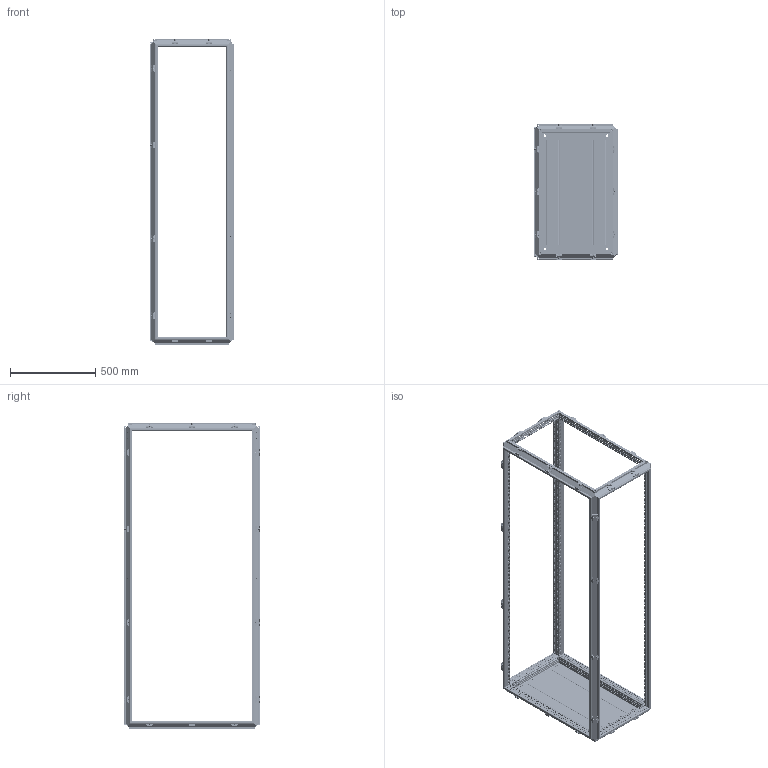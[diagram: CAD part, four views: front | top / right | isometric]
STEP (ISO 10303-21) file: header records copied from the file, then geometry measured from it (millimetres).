
FILE_DESCRIPTION(('STEP AP203'), '1');
FILE_NAME('3000 忺謤僔 捘', '', ('UNSPECIFIED'), ('UNSPECIFIED'), 'C3D Converter', 'C3D Toolkit', '');
FILE_SCHEMA(('CONFIG_CONTROL_DESIGN'));
Length unit declared in the file: millimetre
Products named in the file (12): 3000.180.80.50 СБ; 3000; 3007.75; 3007.200; 3009.04; 3009.04.01; 3009.04.2; 3009.04.01.2
Assembly tree (142 placements, depth 3):
  3000.180.80.50 СБ
    3000
    (unnamed)  x96
    3007.75  x2
    (unnamed)  x8
    3007.200
    3009.04  x10
      3009.04.01
      (unnamed)
      (unnamed)
    3009.04.2  x15
      3009.04.01.2
      (unnamed)
      (unnamed)
Bounding box: 497 x 797 x 1798.5 mm (x, y, z)
Volume: 3590931.7 mm3; surface area: 4766972.7 mm2
Topology: 239 solids, 239 shells, 16721 faces, 46685 edges, 30806 vertices
Faces by surface type: plane 11623, cylinder 4174, cone 636, torus 240, bspline 48
Full cylindrical faces by diameter (mm): 4.134 x136, 4.5 x1784, 4.8 x8, 5 x146, 5.8 x40, 6.8 x192, 7 x96, 7.5 x50, 8 x96, 9.2 x50, 10.106 x8, 14 x4
Entity records: 363588 total; most frequent: CARTESIAN_POINT 66597, ORIENTED_EDGE 58438, DIRECTION 55365, EDGE_CURVE 29219, LINE 23983, VECTOR 23983, VERTEX_POINT 20582, EDGE_LOOP 19897
